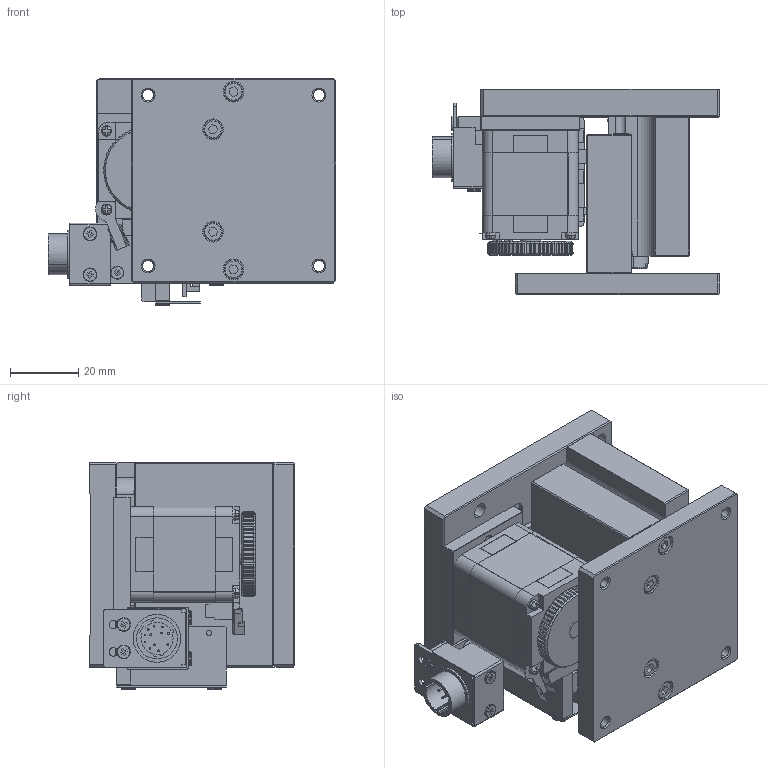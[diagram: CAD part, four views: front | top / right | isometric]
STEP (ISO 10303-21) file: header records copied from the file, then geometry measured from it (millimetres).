
FILE_DESCRIPTION (( 'STEP AP214' ), '1' );
FILE_NAME ('TZS6008-L1-M28.STEP', '2025-01-03T08:48:45', ( '' ), ( '' ), 'SwSTEP 2.0', 'SolidWorks 2020', '' );
FILE_SCHEMA (( 'AUTOMOTIVE_DESIGN' ));
Length unit declared in the file: millimetre
Products named in the file (1): TZS6008-L1-M28
Bounding box: 84.3 x 60 x 66.71 mm (x, y, z)
Volume: 158373.9 mm3; surface area: 80964.1 mm2
Topology: 110 solids, 110 shells, 3555 faces, 8969 edges, 5701 vertices
Faces by surface type: cylinder 1551, plane 1360, cone 415, torus 179, sphere 26, bspline 24
Entity records: 176224 total; most frequent: CARTESIAN_POINT 49149, DIRECTION 18980, ORIENTED_EDGE 17644, EDGE_CURVE 8822, AXIS2_PLACEMENT_3D 7238, VERTEX_POINT 5662, VECTOR 4504, LINE 4504
